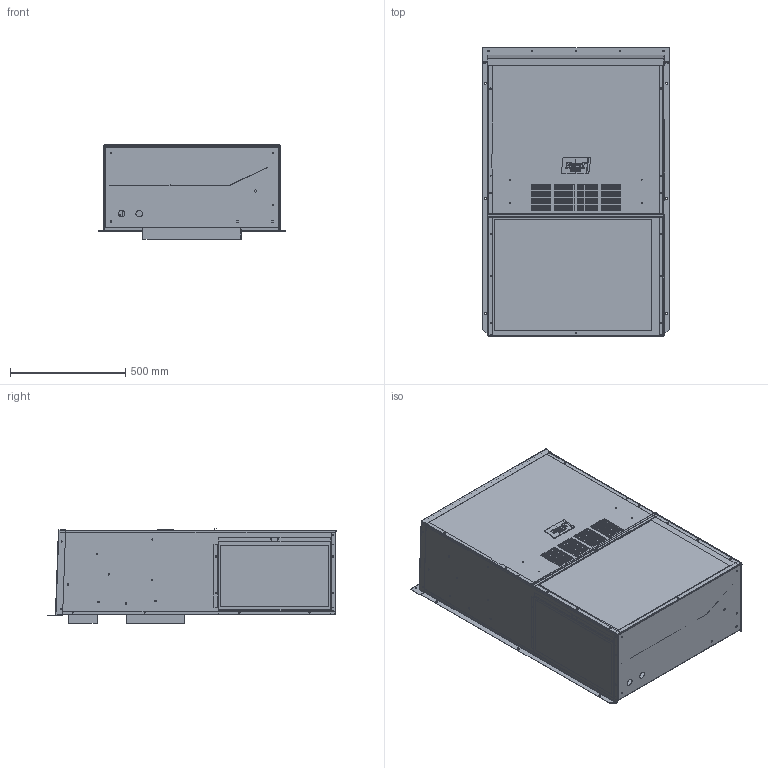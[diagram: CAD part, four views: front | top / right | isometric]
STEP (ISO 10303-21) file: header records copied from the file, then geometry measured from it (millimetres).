
FILE_DESCRIPTION (( 'STEP AP203' ), '1' );
FILE_NAME ('STEP_100.STEP', '2016-06-15T18:53:57', ( '' ), ( '' ), 'SwSTEP 2.0', 'SolidWorks 2016', '' );
FILE_SCHEMA (( 'CONFIG_CONTROL_DESIGN' ));
Length unit declared in the file: inch
Products named in the file (1): STEP_100
Bounding box: 812.8 x 1253.21 x 411.99 mm (x, y, z)
Surface area: 7982457.9 mm2 (no closed solid volume)
Topology: 0 solids, 66 shells, 658 faces, 3500 edges, 2801 vertices
Faces by surface type: plane 352, cylinder 251, torus 49, bspline 6
Entity records: 39480 total; most frequent: CARTESIAN_POINT 11578, DIRECTION 5802, ORIENTED_EDGE 4669, EDGE_CURVE 3500, VERTEX_POINT 2801, LINE 1972, VECTOR 1972, AXIS2_PLACEMENT_3D 1915
